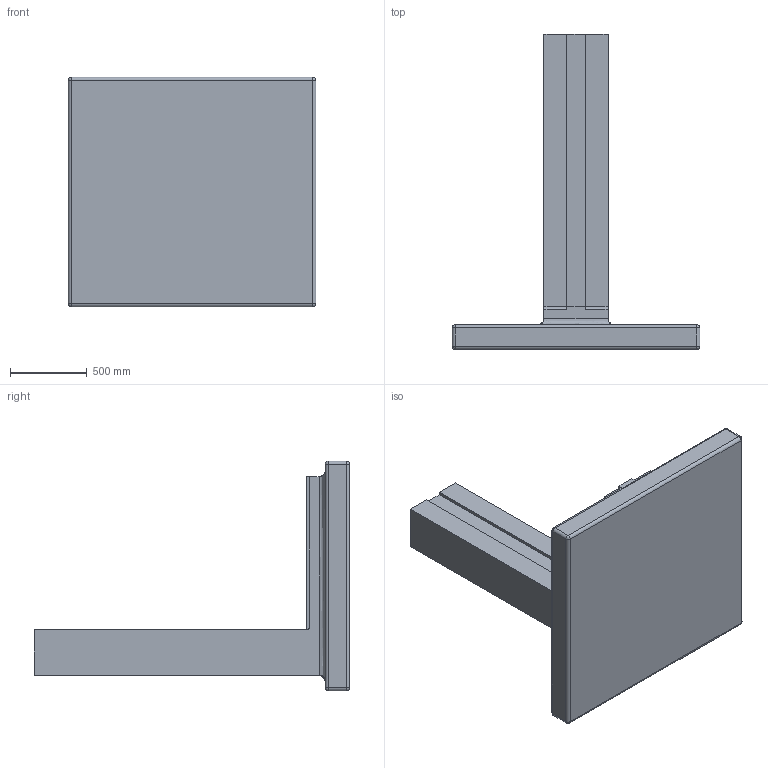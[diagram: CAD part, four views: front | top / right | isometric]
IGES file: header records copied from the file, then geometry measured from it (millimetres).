
Start section: SolidWorks IGES file using analytic representation for surfaces
Global section: file name: J:\Scolaire\BAC Pro\Epreuves professionnelles\E2\CD\Dossier Examinateurs\Dessins CN 5 axes\IGES\Coulisseau.IGS; native system: SolidWorks 2005 by SolidWorks Corporation; preprocessor: SolidWorks 2005 by SolidWorks Corporation; author: Famille Couzi; date: 091204.123607; units: millimetre
Bounding box: 1619.48 x 2060 x 1500 mm (x, y, z)
Surface area: 8730318 mm2 (no closed solid volume)
Topology: 0 solids, 0 shells, 49 faces, 392 edges, 390 vertices
Faces by surface type: revolution 26, bspline 23
